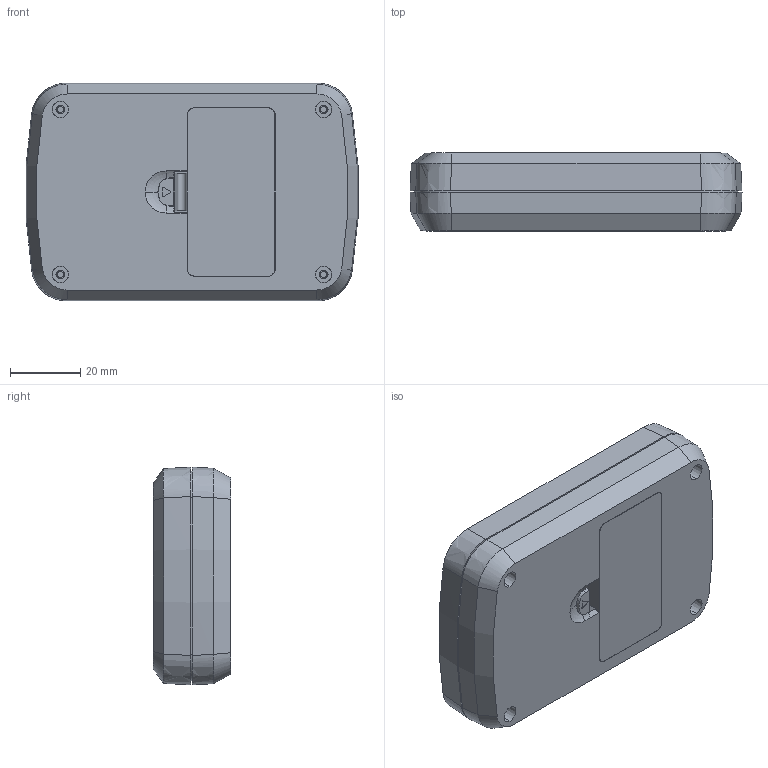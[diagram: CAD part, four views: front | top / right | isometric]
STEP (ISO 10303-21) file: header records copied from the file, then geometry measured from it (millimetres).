
FILE_DESCRIPTION (( 'STEP AP203' ), '1' );
FILE_NAME ('HH-045-0-0.STEP', '2017-08-25T07:32:49', ( '' ), ( '' ), 'SwSTEP 2.0', 'SolidWorks 2015', '' );
FILE_SCHEMA (( 'CONFIG_CONTROL_DESIGN' ));
Length unit declared in the file: millimetre
Products named in the file (4): HH-045-P-1; HH-045-P-2; HH-045-P-3; HH-045-0-0
Assembly tree (3 placements, depth 2):
  HH-045-0-0
    HH-045-P-1
    HH-045-P-2
    HH-045-P-3
Bounding box: 94.59 x 22.15 x 62 mm (x, y, z)
Volume: 33032.6 mm3; surface area: 38716 mm2
Topology: 3 solids, 3 shells, 385 faces, 996 edges, 632 vertices
Faces by surface type: plane 208, bspline 74, cone 67, cylinder 34, torus 2
Entity records: 16495 total; most frequent: CARTESIAN_POINT 7375, ORIENTED_EDGE 1992, DIRECTION 1515, EDGE_CURVE 996, VERTEX_POINT 632, LINE 551, VECTOR 551, AXIS2_PLACEMENT_3D 482
